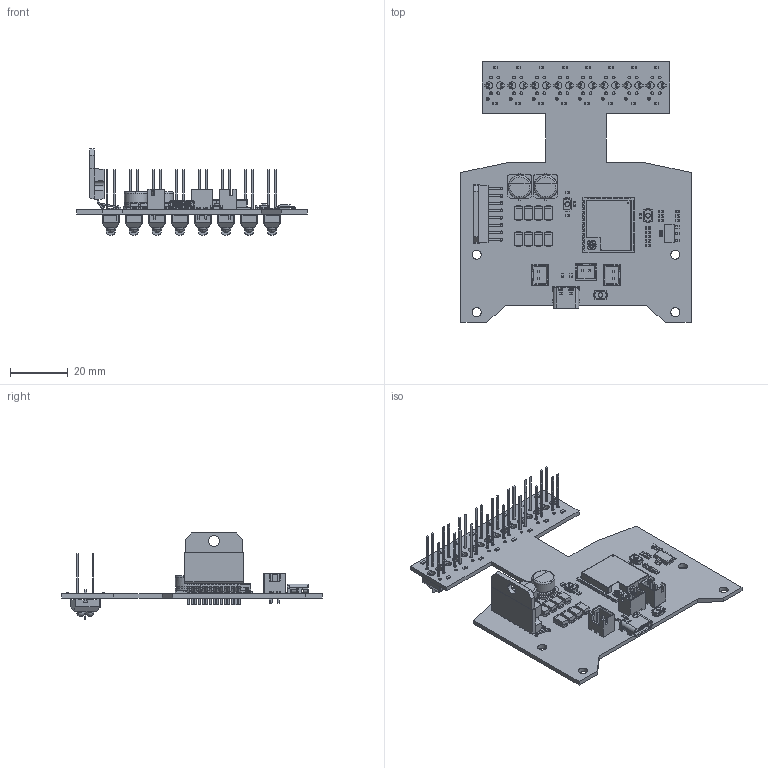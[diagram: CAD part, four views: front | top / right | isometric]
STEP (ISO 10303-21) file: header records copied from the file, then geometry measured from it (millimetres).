
FILE_DESCRIPTION(('KiCad electronic assembly'),'2;1');
FILE_NAME('Line follower.step','2025-11-25T09:52:19',('Pcbnew'),('Kicad' ),'Open CASCADE STEP processor 7.8','KiCad to STEP converter', 'Unknown');
FILE_SCHEMA(('AUTOMOTIVE_DESIGN { 1 0 10303 214 1 1 1 1 }'));
Length unit declared in the file: millimetre
Products named in the file (15): Line follower 1; L298N; R_0603_1608Metric; ESP32-S3-WROOM-1U-N16R8; D_SMA; B2B-XH-A; BxB-XH-A_02; C_0603_1608Metric; TS-1088-AR02016; CP_Elec_8x6.2; SOT-223; LED_0603_1608Metric; 10155435-00011LF; TCRT5000L; Line follower_PCB
Assembly tree (63 placements, depth 3):
  Line follower 1
    L298N
    R_0603_1608Metric  x23
    ESP32-S3-WROOM-1U-N16R8
    D_SMA  x8
    B2B-XH-A  x3
      BxB-XH-A_02
    C_0603_1608Metric  x9
    TS-1088-AR02016  x3
    CP_Elec_8x6.2  x2
    SOT-223
    LED_0603_1608Metric
    10155435-00011LF
    TCRT5000L  x8
    Line follower_PCB
Bounding box: 80 x 90.5 x 29.88 mm (x, y, z)
Volume: 13169.9 mm3; surface area: 22446.6 mm2
Topology: 196 solids, 196 shells, 5378 faces, 14283 edges, 9276 vertices
Faces by surface type: plane 4062, cylinder 1098, bspline 116, cone 52, sphere 34, torus 14, revolution 2
Full cylindrical faces by diameter (mm): 0.2 x12, 0.65 x2, 1 x55, 1.05 x6, 2.5 x16, 3.2 x4, 8 x4
Entity records: 88768 total; most frequent: CARTESIAN_POINT 16070, ORIENTED_EDGE 14212, DIRECTION 13308, EDGE_CURVE 7106, LINE 5713, VECTOR 5713, VERTEX_POINT 4626, AXIS2_PLACEMENT_3D 3797
